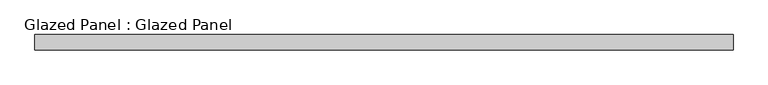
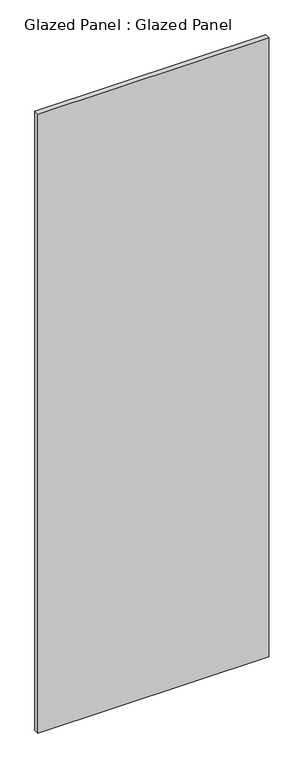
"""IFC4 building model written with IfcOpenShell, lengths in millimetres: plate geometry, Glazed Panel : Glazed Panel."""

from ifc_helpers import new_model, si_unit, origin, origin_with_axes, place, context, project, spatial, polyline, outline, extrude, source, transform, mapped, element, save


def glazed_panel_glazed_panel_e34de235(model_context):
    return source(origin(), model_context, "Body", "SweptSolid", [
        extrude(outline(polyline([(584.9807766, 38.1), (-584.9807766, 38.1), (-584.9807766, 63.5), (584.9807766, 63.5), (584.9807766, 38.1)])), origin_with_axes(), (0.0, 0.0, 1.0), 3314.5743765),
    ])


if __name__ == "__main__":
    model = new_model("IFC4")
    model_context = context("Model", 3, world=origin())
    ifc_project = project(units=[si_unit("LENGTHUNIT", "METRE", prefix="MILLI")], contexts=[model_context])
    site = spatial("IfcSite", under=ifc_project)
    building = spatial("IfcBuilding", under=site)
    placement = place(None, origin())
    glazed_panel_glazed_panel_shape = glazed_panel_glazed_panel_e34de235(model_context)
    element("IfcPlate", 1, ObjectType="Glazed Panel : Glazed Panel", at=placement, inside=building, context=model_context, shape_type="MappedRepresentation", body=[
        mapped(glazed_panel_glazed_panel_shape, transform((0.0, 0.0, 0.0), x_axis=(1.0, 0.0, 0.0), y_axis=(0.0, 1.0, 0.0), z_axis=(0.0, 0.0, 1.0))),
    ])
    save(model, "model.ifc")
